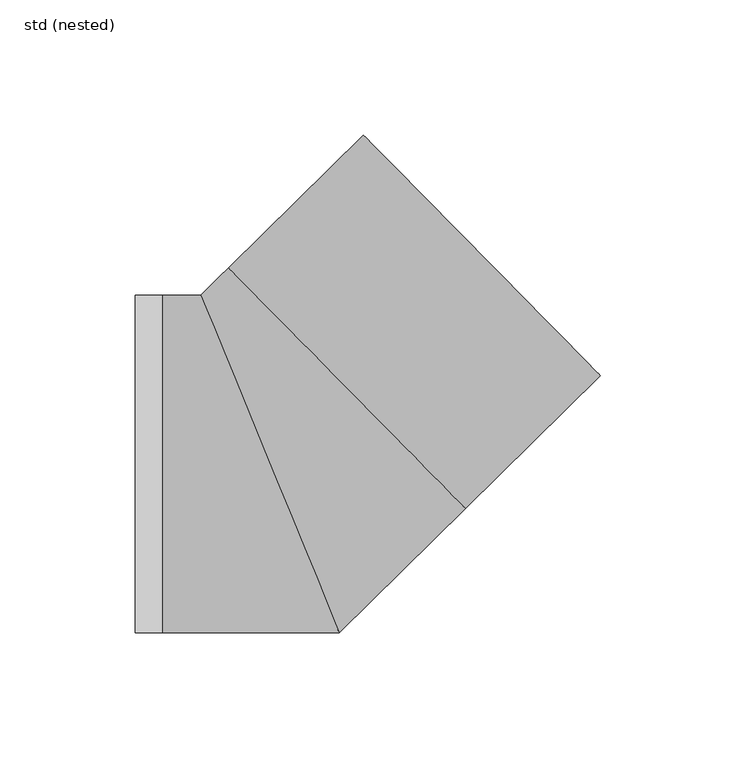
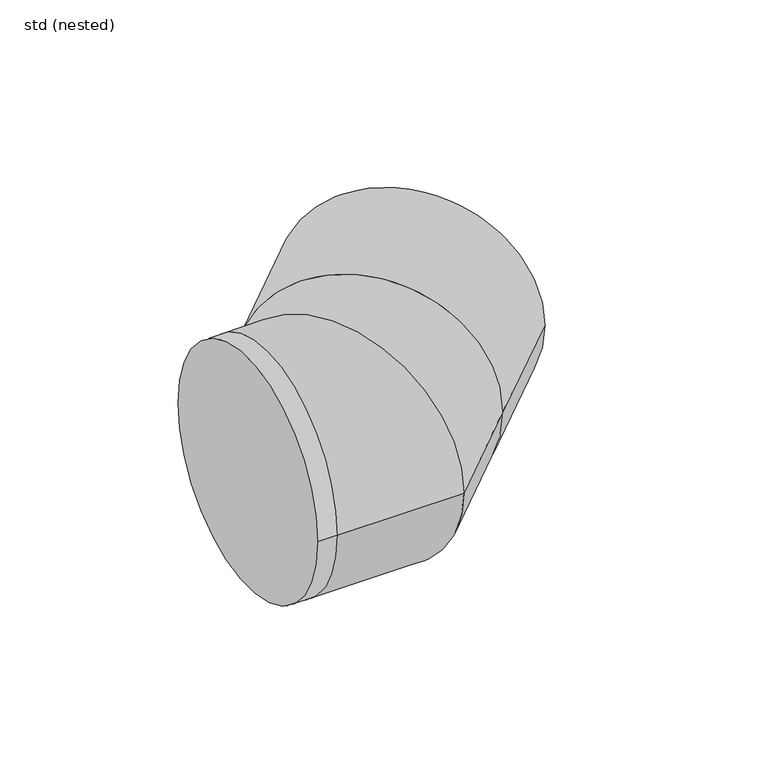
"""IFC4 building model written with IfcOpenShell, lengths in millimetres: pipe fitting geometry, ZZZ_do not use_PIF_ST_UN_ACO pipe bend_ACO : std (nested)."""

from ifc_helpers import new_model, si_unit, frame, origin, place, context, project, spatial, circle_curve, ellipse_curve, source, transform, mapped, element, save
from ifc_brep_helpers import plane_surface, cylinder_surface, advanced_brep


def std_nested_083b6aa0(model_context):
    return source(origin(), model_context, "Body", "AdvancedBrep", [
        advanced_brep(
        [(-50.0, -62.5, 0.0), (-50.0, 62.5, 0.0), (-40.0, 62.5, 0.0), (-40.0, -62.5, 0.0), (122.2243753, 32.6718854, 0.0), (34.5013698, 121.7206042, 0.0), (-15.3659127, 72.5957211, 0.0), (72.3570927, -16.4529977, 0.0), (25.6142054, -62.5, 0.0), (-25.6142054, 62.5, 0.0)],
        [
            (0, 1, circle_curve(frame((-50.0, 0.0, 0.0), z_axis=(-1.0, 0.0, 0.0), x_axis=(0.0, 1.0, 0.0)), 62.5)),
            (1, 0, circle_curve(frame((-50.0, 0.0, 0.0), z_axis=(-1.0, 0.0, 0.0), x_axis=(0.0, 1.0, 0.0)), 62.5)),
            (1, 2),
            (2, 3, circle_curve(frame((-40.0, 0.0, 0.0), z_axis=(-1.0, 0.0, 0.0), x_axis=(0.0, 1.0, 0.0)), 62.5)),
            (3, 0),
            (3, 2, circle_curve(frame((-40.0, 0.0, 0.0), z_axis=(-1.0, 0.0, 0.0), x_axis=(0.0, 1.0, 0.0)), 62.5)),
            (4, 5, circle_curve(frame((78.3628725, 77.1962448, 0.0), z_axis=(0.7123897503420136, 0.7017840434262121, 0.0), x_axis=(-0.7017840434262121, 0.7123897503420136, 0.0)), 62.5)),
            (5, 4, circle_curve(frame((78.3628725, 77.1962448, 0.0), z_axis=(0.7123897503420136, 0.7017840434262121, 0.0), x_axis=(-0.7017840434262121, 0.7123897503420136, 0.0)), 62.5)),
            (5, 6),
            (6, 7, circle_curve(frame((28.49559, 28.0713617, 0.0), z_axis=(0.7123897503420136, 0.7017840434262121, 0.0), x_axis=(-0.7017840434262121, 0.7123897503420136, 0.0)), 62.5)),
            (7, 4),
            (7, 6, circle_curve(frame((28.49559, 28.0713617, 0.0), z_axis=(0.7123897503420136, 0.7017840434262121, 0.0), x_axis=(-0.7017840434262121, 0.7123897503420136, 0.0)), 62.5)),
            (3, 8),
            (8, 9, ellipse_curve(frame((0.0, 0.0, 0.0), z_axis=(-0.9253079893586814, -0.3792164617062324, 0.0), x_axis=(-0.379216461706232, 0.9253079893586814, 0.0)), 67.5450777, 62.5)),
            (9, 2),
            (9, 8, ellipse_curve(frame((0.0, 0.0, 0.0), z_axis=(-0.9253079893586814, -0.3792164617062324, 0.0), x_axis=(-0.379216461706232, 0.9253079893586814, 0.0)), 67.5450777, 62.5)),
            (8, 7),
            (6, 9),
        ],
        [
            plane_surface(frame((-50.0, 62.5, 0.0), z_axis=(-1.0, 0.0, 0.0), x_axis=(0.0, 0.0, -1.0))),
            cylinder_surface(frame((-50.0, 0.0, 0.0), z_axis=(1.0, 0.0, 0.0), x_axis=(0.0, 1.0, 0.0)), 62.5),
            plane_surface(frame((78.3628725, 77.1962448, 0.0), z_axis=(0.7123897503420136, 0.7017840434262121, 0.0), x_axis=(0.0, 0.0, 1.0))),
            cylinder_surface(frame((28.49559, 28.0713617, 0.0), z_axis=(-0.7123897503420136, -0.7017840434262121, 0.0), x_axis=(-0.7017840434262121, 0.7123897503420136, 0.0)), 62.5),
            cylinder_surface(frame((-40.0, 0.0, 0.0), z_axis=(-1.0, 0.0, 0.0), x_axis=(0.0, 1.0, 0.0)), 62.5),
            cylinder_surface(frame((0.0, 0.0, 0.0), z_axis=(-0.7123897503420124, -0.7017840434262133, 0.0), x_axis=(-0.7017840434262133, 0.7123897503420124, 0.0)), 62.5),
        ],
        [
            (0, [[1, 2]]),
            (1, [[-2, 3, 4, 5]]),
            (1, [[-1, -5, 6, -3]]),
            (2, [[7, 8]]),
            (3, [[-8, 9, 10, 11]]),
            (3, [[-7, -11, 12, -9]]),
            (4, [[13, 14, 15, -6]]),
            (4, [[-13, -4, -15, 16]]),
            (5, [[-14, 17, -10, 18]]),
            (5, [[-16, -18, -12, -17]]),
        ],
    ),
    ])


if __name__ == "__main__":
    model = new_model("IFC4")
    model_context = context("Model", 3, world=origin())
    ifc_project = project(units=[si_unit("LENGTHUNIT", "METRE", prefix="MILLI")], contexts=[model_context])
    site = spatial("IfcSite", under=ifc_project)
    building = spatial("IfcBuilding", under=site)
    placement = place(None, origin())
    std_nested_shape = std_nested_083b6aa0(model_context)
    element("IfcPipeFitting", 1, ObjectType="ZZZ_do not use_PIF_ST_UN_ACO pipe bend_ACO : std (nested)", at=placement, inside=building, context=model_context, shape_type="MappedRepresentation", body=[
        mapped(std_nested_shape, transform((0.0, 0.0, 0.0), x_axis=(1.0, 0.0, 0.0), y_axis=(0.0, 1.0, 0.0), z_axis=(0.0, 0.0, 1.0))),
    ])
    save(model, "model.ifc")
